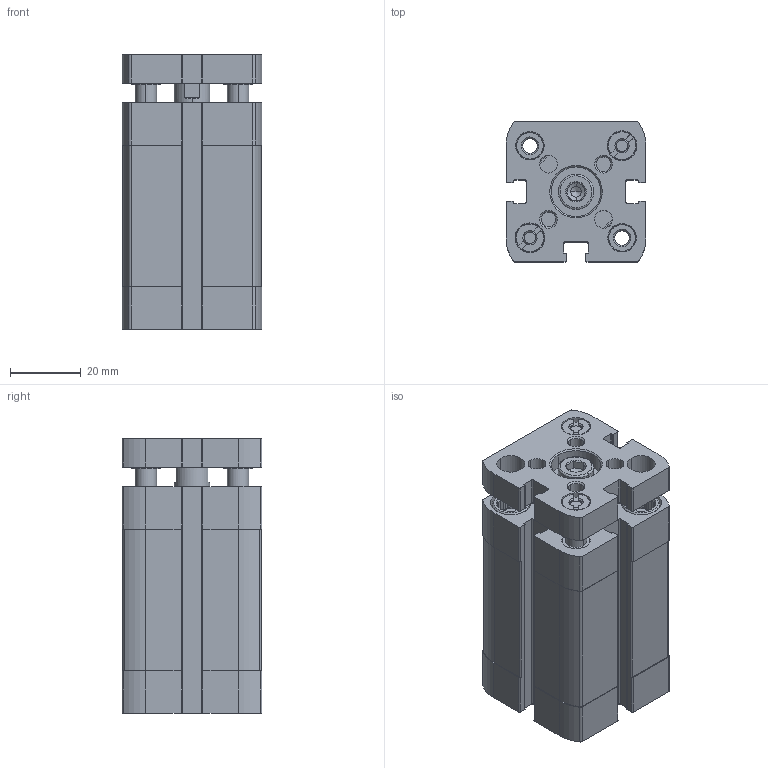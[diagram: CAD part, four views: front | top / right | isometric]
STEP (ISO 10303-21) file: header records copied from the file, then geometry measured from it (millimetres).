
FILE_DESCRIPTION (( 'STEP AP203' ), '1' );
FILE_NAME ('CCNG25-25.STEP', '2017-04-13T18:24:22', ( '' ), ( '' ), 'SwSTEP 2.0', 'SolidWorks 2016', '' );
FILE_SCHEMA (( 'CONFIG_CONTROL_DESIGN' ));
Length unit declared in the file: millimetre
Products named in the file (3): CCNG-25-25--(Z); CCNG-25-25--(KS); CCNG25-25
Assembly tree (2 placements, depth 2):
  CCNG25-25
    CCNG-25-25--(Z)
    CCNG-25-25--(KS)
Bounding box: 39.5 x 39.5 x 77.5 mm (x, y, z)
Volume: 85152.1 mm3; surface area: 36237 mm2
Topology: 2 solids, 6 shells, 598 faces, 1581 edges, 1031 vertices
Faces by surface type: plane 301, cylinder 214, cone 77, bspline 6
Entity records: 19230 total; most frequent: CARTESIAN_POINT 3748, DIRECTION 3275, ORIENTED_EDGE 3158, EDGE_CURVE 1579, AXIS2_PLACEMENT_3D 1232, VERTEX_POINT 1031, VECTOR 811, LINE 811
